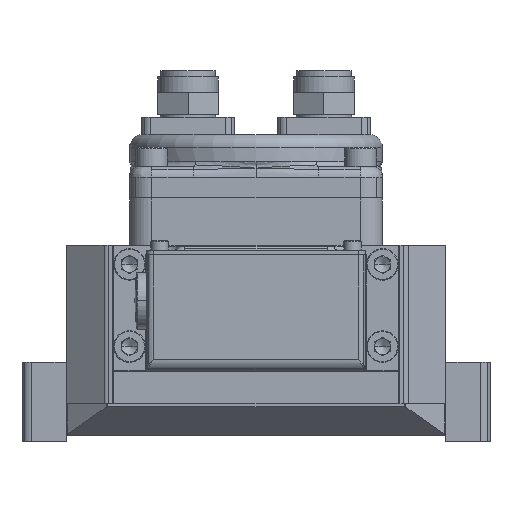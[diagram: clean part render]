
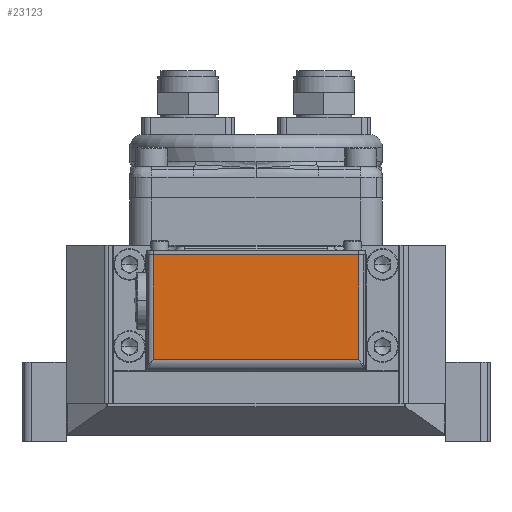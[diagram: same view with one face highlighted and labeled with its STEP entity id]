
A CAD part, front view. The second image highlights one B-rep face of the part: STEP entity #23123.
In plain terms, the highlighted planar face has unit normal (0, -1, 0).
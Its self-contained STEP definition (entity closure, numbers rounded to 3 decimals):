
#306 = LINE ( 'NONE', #66458, #55370 ) ;
#9515 = CARTESIAN_POINT ( 'NONE',  ( -32.5, -127.25, 47. ) ) ;
#13787 = LINE ( 'NONE', #51928, #81621 ) ;
#15135 = EDGE_CURVE ( 'NONE', #59691, #79953, #51430, .T. ) ;
#15287 = VECTOR ( 'NONE', #22932, 1000. ) ;
#15684 = CARTESIAN_POINT ( 'NONE',  ( -32.5, -127.25, 14. ) ) ;
#17793 = CARTESIAN_POINT ( 'NONE',  ( 32.5, -127.25, 14. ) ) ;
#22932 = DIRECTION ( 'NONE',  ( 0., 0., 1. ) ) ;
#23123 = ADVANCED_FACE ( 'NONE', ( #30643 ), #89995, .T. ) ;
#23851 = CARTESIAN_POINT ( 'NONE',  ( 45., -127.25, 10. ) ) ;
#26226 = ORIENTED_EDGE ( 'NONE', *, *, #66774, .F. ) ;
#30643 = FACE_OUTER_BOUND ( 'NONE', #40712, .T. ) ;
#40712 = EDGE_LOOP ( 'NONE', ( #82172, #26226, #53479, #95359 ) ) ;
#50149 = CARTESIAN_POINT ( 'NONE',  ( 32.5, -127.25, 47. ) ) ;
#51430 = LINE ( 'NONE', #58685, #81373 ) ;
#51928 = CARTESIAN_POINT ( 'NONE',  ( 32.5, -127.25, 14. ) ) ;
#52905 = DIRECTION ( 'NONE',  ( -1., 0., 0. ) ) ;
#53327 = DIRECTION ( 'NONE',  ( 0., -1., 0. ) ) ;
#53479 = ORIENTED_EDGE ( 'NONE', *, *, #66701, .F. ) ;
#53947 = EDGE_CURVE ( 'NONE', #59691, #92787, #306, .T. ) ;
#55370 = VECTOR ( 'NONE', #52905, 1000. ) ;
#58685 = CARTESIAN_POINT ( 'NONE',  ( 32.5, -127.25, 47. ) ) ;
#59691 = VERTEX_POINT ( 'NONE', #50149 ) ;
#66458 = CARTESIAN_POINT ( 'NONE',  ( 32.5, -127.25, 47. ) ) ;
#66701 = EDGE_CURVE ( 'NONE', #79953, #82074, #13787, .T. ) ;
#66774 = EDGE_CURVE ( 'NONE', #82074, #92787, #75067, .T. ) ;
#75067 = LINE ( 'NONE', #15684, #15287 ) ;
#75981 = DIRECTION ( 'NONE',  ( -1., 0., 0. ) ) ;
#79953 = VERTEX_POINT ( 'NONE', #17793 ) ;
#81373 = VECTOR ( 'NONE', #95366, 1000. ) ;
#81377 = DIRECTION ( 'NONE',  ( -1., 0., 0. ) ) ;
#81621 = VECTOR ( 'NONE', #81377, 1000. ) ;
#82074 = VERTEX_POINT ( 'NONE', #90018 ) ;
#82172 = ORIENTED_EDGE ( 'NONE', *, *, #53947, .T. ) ;
#89995 = PLANE ( 'NONE',  #90917 ) ;
#90018 = CARTESIAN_POINT ( 'NONE',  ( -32.5, -127.25, 14. ) ) ;
#90917 = AXIS2_PLACEMENT_3D ( 'NONE', #23851, #53327, #75981 ) ;
#92787 = VERTEX_POINT ( 'NONE', #9515 ) ;
#95359 = ORIENTED_EDGE ( 'NONE', *, *, #15135, .F. ) ;
#95366 = DIRECTION ( 'NONE',  ( 0., 0., -1. ) ) ;
